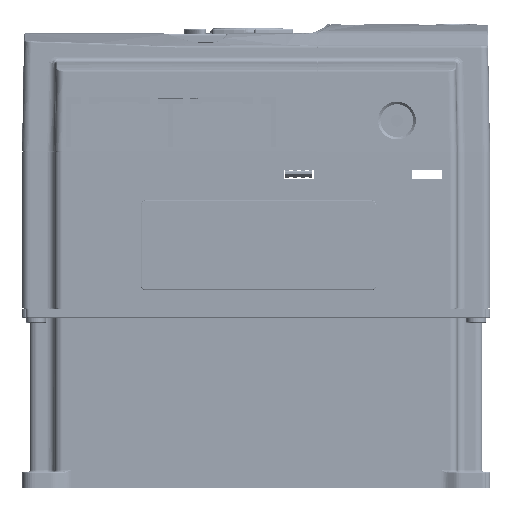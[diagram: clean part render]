
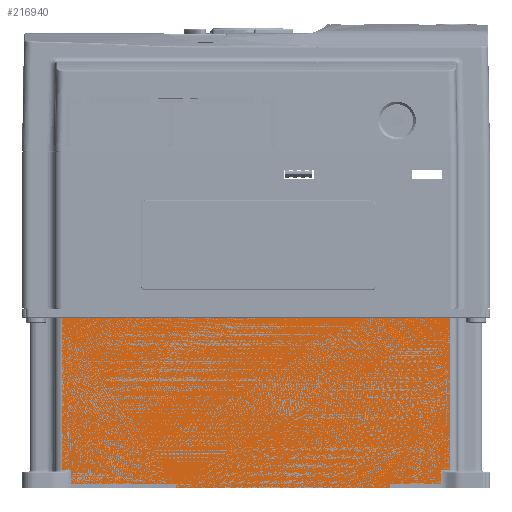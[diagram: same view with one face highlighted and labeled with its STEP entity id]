
A CAD part, left-side view. The second image highlights one B-rep face of the part: STEP entity #216940.
In plain terms, the highlighted planar face has unit normal (-1, 0, 0) as drawn and (1, 0, 0) by its records, which use the part's own axes.
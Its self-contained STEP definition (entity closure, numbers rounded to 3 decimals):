
#195742 = VERTEX_POINT('',#195743);
#195743 = CARTESIAN_POINT('',(60.,50.,55.));
#195749 = EDGE_CURVE('',#195750,#195742,#195752,.T.);
#195750 = VERTEX_POINT('',#195751);
#195751 = CARTESIAN_POINT('',(60.,50.,75.434));
#195752 = LINE('',#195753,#195754);
#195753 = CARTESIAN_POINT('',(60.,50.,75.434));
#195754 = VECTOR('',#195755,1.);
#195755 = DIRECTION('',(0.,0.,-1.));
#196951 = VERTEX_POINT('',#196952);
#196952 = CARTESIAN_POINT('',(60.,50.,-71.794));
#196959 = EDGE_CURVE('',#196960,#196951,#196962,.T.);
#196960 = VERTEX_POINT('',#196961);
#196961 = CARTESIAN_POINT('',(60.,50.,-30.));
#196962 = LINE('',#196963,#196964);
#196963 = CARTESIAN_POINT('',(60.,50.,-30.));
#196964 = VECTOR('',#196965,1.);
#196965 = DIRECTION('',(0.,0.,-1.));
#198252 = VERTEX_POINT('',#198253);
#198253 = CARTESIAN_POINT('',(60.,44.5,-75.181));
#198260 = EDGE_CURVE('',#198252,#198261,#198263,.T.);
#198261 = VERTEX_POINT('',#198262);
#198262 = CARTESIAN_POINT('',(60.,44.5,
    -71.794));
#198263 = LINE('',#198264,#198265);
#198264 = CARTESIAN_POINT('',(60.,44.5,-75.181));
#198265 = VECTOR('',#198266,1.);
#198266 = DIRECTION('',(0.,0.,
    1.));
#216869 = VERTEX_POINT('',#216870);
#216870 = CARTESIAN_POINT('',(60.,44.5,78.819));
#216893 = EDGE_CURVE('',#216894,#216869,#216896,.T.);
#216894 = VERTEX_POINT('',#216895);
#216895 = CARTESIAN_POINT('',(60.,44.5,75.434));
#216896 = LINE('',#216897,#216898);
#216897 = CARTESIAN_POINT('',(60.,44.5,75.434));
#216898 = VECTOR('',#216899,1.);
#216899 = DIRECTION('',(0.,0.,1.));
#216940 = ADVANCED_FACE('',(#216941),#217003,.T.);
#216941 = FACE_BOUND('',#216942,.F.);
#216942 = EDGE_LOOP('',(#216943,#216944,#216952,#216960,#216966,#216967,
    #216973,#216974,#216982,#216990,#216996,#216997));
#216943 = ORIENTED_EDGE('',*,*,#195749,.T.);
#216944 = ORIENTED_EDGE('',*,*,#216945,.T.);
#216945 = EDGE_CURVE('',#195742,#216946,#216948,.T.);
#216946 = VERTEX_POINT('',#216947);
#216947 = CARTESIAN_POINT('',(60.,51.5,55.));
#216948 = LINE('',#216949,#216950);
#216949 = CARTESIAN_POINT('',(60.,50.,55.));
#216950 = VECTOR('',#216951,1.);
#216951 = DIRECTION('',(0.,1.,0.));
#216952 = ORIENTED_EDGE('',*,*,#216953,.T.);
#216953 = EDGE_CURVE('',#216946,#216954,#216956,.T.);
#216954 = VERTEX_POINT('',#216955);
#216955 = CARTESIAN_POINT('',(60.,51.5,-30.));
#216956 = LINE('',#216957,#216958);
#216957 = CARTESIAN_POINT('',(60.,51.5,55.));
#216958 = VECTOR('',#216959,1.);
#216959 = DIRECTION('',(0.,0.,-1.));
#216960 = ORIENTED_EDGE('',*,*,#216961,.F.);
#216961 = EDGE_CURVE('',#196960,#216954,#216962,.T.);
#216962 = LINE('',#216963,#216964);
#216963 = CARTESIAN_POINT('',(60.,50.,-30.));
#216964 = VECTOR('',#216965,1.);
#216965 = DIRECTION('',(0.,1.,0.));
#216966 = ORIENTED_EDGE('',*,*,#196959,.T.);
#216967 = ORIENTED_EDGE('',*,*,#216968,.F.);
#216968 = EDGE_CURVE('',#198261,#196951,#216969,.T.);
#216969 = LINE('',#216970,#216971);
#216970 = CARTESIAN_POINT('',(60.,44.5,
    -71.794));
#216971 = VECTOR('',#216972,1.);
#216972 = DIRECTION('',(0.,1.,
    0.));
#216973 = ORIENTED_EDGE('',*,*,#198260,.F.);
#216974 = ORIENTED_EDGE('',*,*,#216975,.T.);
#216975 = EDGE_CURVE('',#198252,#216976,#216978,.T.);
#216976 = VERTEX_POINT('',#216977);
#216977 = CARTESIAN_POINT('',(60.,-16.,-75.181));
#216978 = LINE('',#216979,#216980);
#216979 = CARTESIAN_POINT('',(60.,44.5,-75.181));
#216980 = VECTOR('',#216981,1.);
#216981 = DIRECTION('',(0.,-1.,0.));
#216982 = ORIENTED_EDGE('',*,*,#216983,.F.);
#216983 = EDGE_CURVE('',#216984,#216976,#216986,.T.);
#216984 = VERTEX_POINT('',#216985);
#216985 = CARTESIAN_POINT('',(60.,-16.,78.819));
#216986 = LINE('',#216987,#216988);
#216987 = CARTESIAN_POINT('',(60.,-16.,78.819));
#216988 = VECTOR('',#216989,1.);
#216989 = DIRECTION('',(0.,0.,-1.));
#216990 = ORIENTED_EDGE('',*,*,#216991,.F.);
#216991 = EDGE_CURVE('',#216869,#216984,#216992,.T.);
#216992 = LINE('',#216993,#216994);
#216993 = CARTESIAN_POINT('',(60.,44.5,78.819));
#216994 = VECTOR('',#216995,1.);
#216995 = DIRECTION('',(0.,-1.,0.));
#216996 = ORIENTED_EDGE('',*,*,#216893,.F.);
#216997 = ORIENTED_EDGE('',*,*,#216998,.F.);
#216998 = EDGE_CURVE('',#195750,#216894,#216999,.T.);
#216999 = LINE('',#217000,#217001);
#217000 = CARTESIAN_POINT('',(60.,50.,75.434));
#217001 = VECTOR('',#217002,1.);
#217002 = DIRECTION('',(0.,-1.,0.));
#217003 = PLANE('',#217004);
#217004 = AXIS2_PLACEMENT_3D('',#217005,#217006,#217007);
#217005 = CARTESIAN_POINT('',(60.,0.,78.819));
#217006 = DIRECTION('',(1.,0.,0.));
#217007 = DIRECTION('',(0.,0.,-1.));
